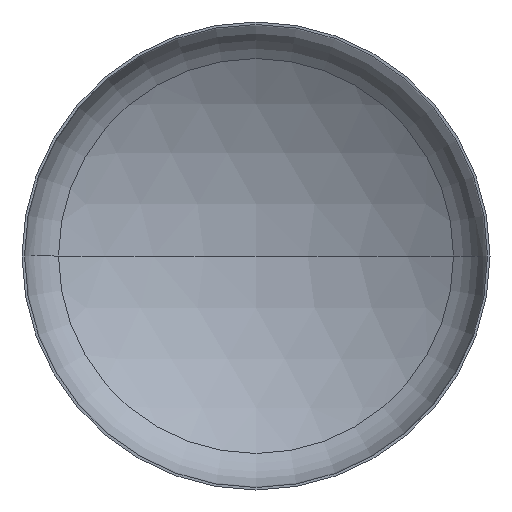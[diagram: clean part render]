
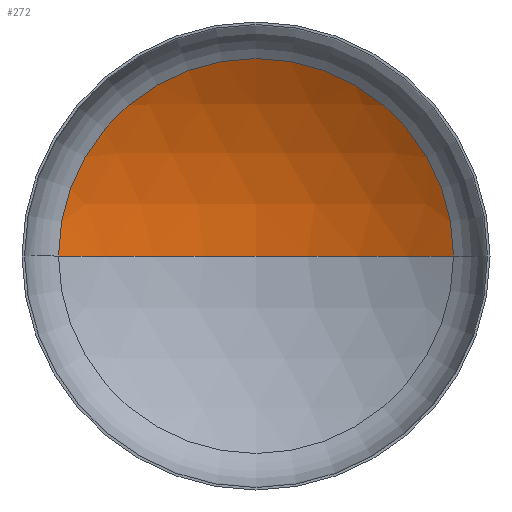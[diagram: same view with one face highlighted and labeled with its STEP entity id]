
A CAD part, front view. The second image highlights one B-rep face of the part: STEP entity #272.
In plain terms, the highlighted spherical face has radius 4400 mm.
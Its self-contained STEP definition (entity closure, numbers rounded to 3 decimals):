
#3 = ORIENTED_EDGE ( 'NONE', *, *, #307, .T. ) ;
#6 = ORIENTED_EDGE ( 'NONE', *, *, #336, .T. ) ;
#13 = FACE_OUTER_BOUND ( 'NONE', #161, .T. ) ;
#24 = ORIENTED_EDGE ( 'NONE', *, *, #351, .F. ) ;
#47 = CARTESIAN_POINT ( 'NONE',  ( 0., 1469.669, 0. ) ) ;
#62 = VERTEX_POINT ( 'NONE', #285 ) ;
#74 = AXIS2_PLACEMENT_3D ( 'NONE', #345, #178, #371 ) ;
#81 = CIRCLE ( 'NONE', #157, 4400. ) ;
#97 = DIRECTION ( 'NONE',  ( 0., 0., 1. ) ) ;
#128 = DIRECTION ( 'NONE',  ( 0., 0., -1. ) ) ;
#132 = DIRECTION ( 'NONE',  ( -1., 0., 0. ) ) ;
#150 = VERTEX_POINT ( 'NONE', #405 ) ;
#157 = AXIS2_PLACEMENT_3D ( 'NONE', #299, #97, #322 ) ;
#161 = EDGE_LOOP ( 'NONE', ( #24, #6, #3 ) ) ;
#178 = DIRECTION ( 'NONE',  ( 0., 0., -1. ) ) ;
#199 = CIRCLE ( 'NONE', #74, 4400. ) ;
#203 = CARTESIAN_POINT ( 'NONE',  ( 0., -2930.331, 0. ) ) ;
#208 = DIRECTION ( 'NONE',  ( 0., -1., 0. ) ) ;
#272 = ADVANCED_FACE ( 'NONE', ( #13 ), #352, .F. ) ;
#281 = VERTEX_POINT ( 'NONE', #47 ) ;
#285 = CARTESIAN_POINT ( 'NONE',  ( 2320.675, 807.913, 0. ) ) ;
#299 = CARTESIAN_POINT ( 'NONE',  ( 0., -2930.331, 0. ) ) ;
#307 = EDGE_CURVE ( 'NONE', #62, #150, #346, .T. ) ;
#322 = DIRECTION ( 'NONE',  ( 1., 0., 0. ) ) ;
#336 = EDGE_CURVE ( 'NONE', #281, #62, #199, .T. ) ;
#345 = CARTESIAN_POINT ( 'NONE',  ( 0., -2930.331, 0. ) ) ;
#346 = CIRCLE ( 'NONE', #404, 2320.675 ) ;
#351 = EDGE_CURVE ( 'NONE', #281, #150, #81, .T. ) ;
#352 = SPHERICAL_SURFACE ( 'NONE', #374, 4400. ) ;
#366 = CARTESIAN_POINT ( 'NONE',  ( 0., 807.913, 0. ) ) ;
#371 = DIRECTION ( 'NONE',  ( -1., 0., 0. ) ) ;
#374 = AXIS2_PLACEMENT_3D ( 'NONE', #203, #128, #132 ) ;
#389 = DIRECTION ( 'NONE',  ( 1., 0., 0. ) ) ;
#404 = AXIS2_PLACEMENT_3D ( 'NONE', #366, #208, #389 ) ;
#405 = CARTESIAN_POINT ( 'NONE',  ( -2320.675, 807.913, 0. ) ) ;
